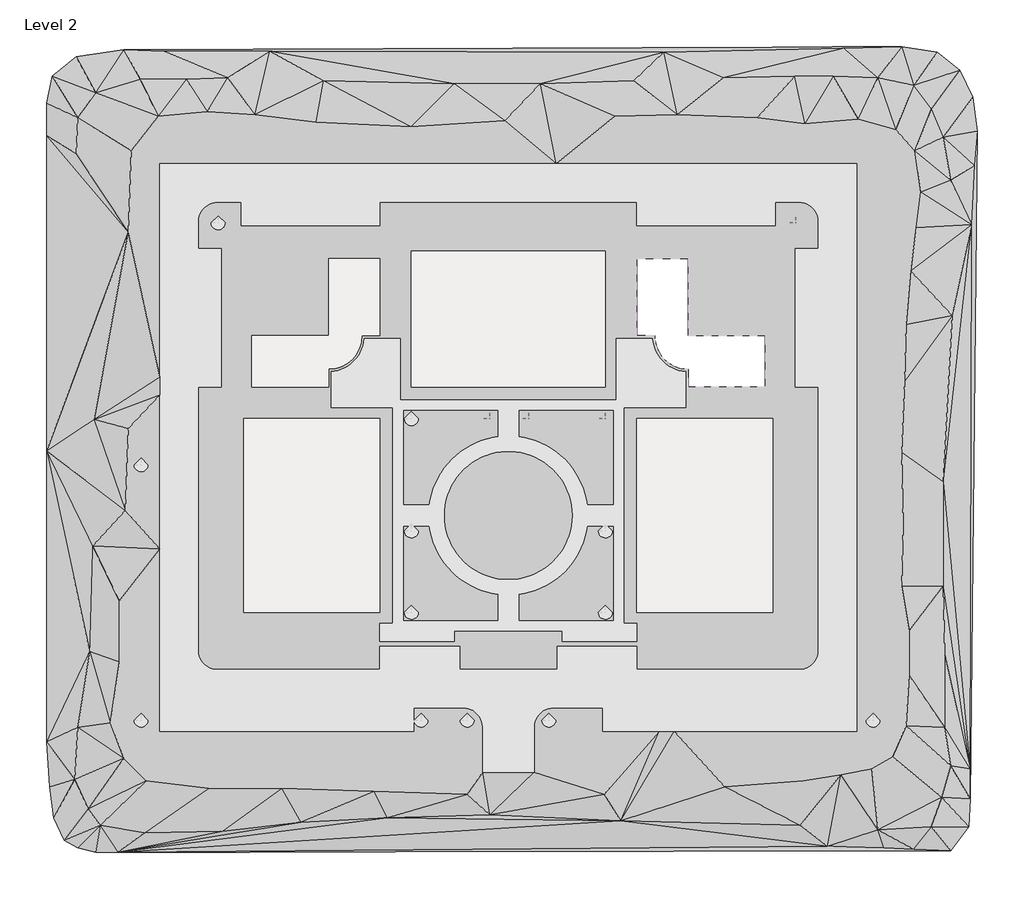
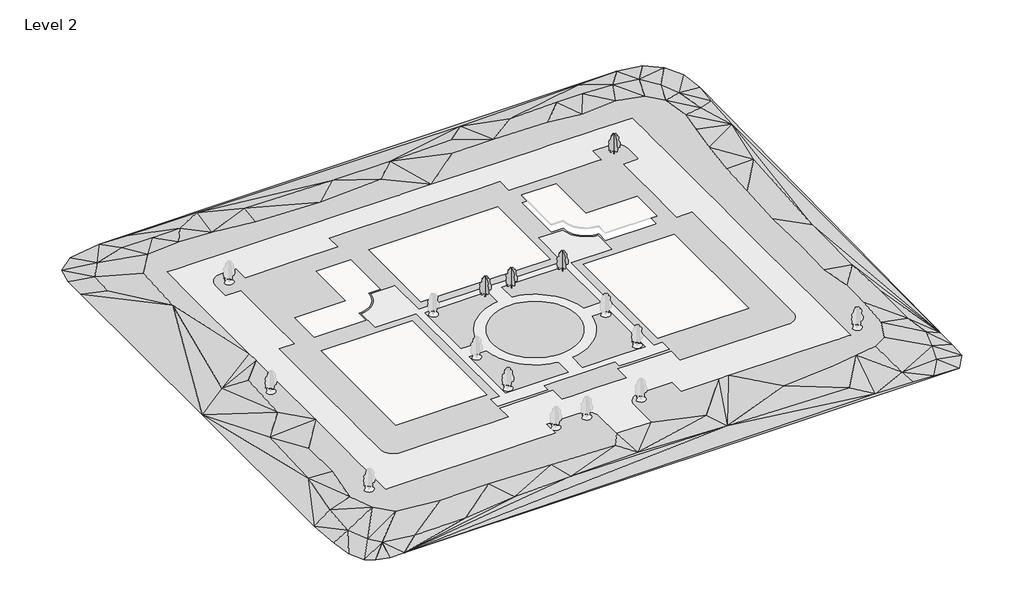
# One storey, part 2 of 2: 4 geographic elements, 1 proxy.
"""IFC4 building model written with IfcOpenShell, lengths in millimetres."""

from ifc_helpers import new_model, si_unit, origin, place, context, project, spatial, triangles, transform, mapped, element, save
from components import rpc_tree_deciduous_red_ash_25_14781bec

model = new_model("IFC4")

# Units and contexts
model_context = context("Model", 3, world=origin())
ifc_project = project(units=[si_unit("LENGTHUNIT", "METRE", prefix="MILLI")], contexts=[model_context])

# Site, building, storey
site = spatial("IfcSite", under=ifc_project)
building = spatial("IfcBuilding", under=site)
storey = spatial("IfcBuildingStorey", under=building, Name="Level 2", Elevation=3047.9999999)

# Proxy
placement = place(None, origin())
element("IfcBuildingElementProxy", 1, Name="Building Element Proxy", at=placement, inside=storey, context=model_context, shape_type="Tessellation", body=[
    triangles([(-199970.6219238, -770.6450392, 0.0), (-199970.6219238, -75600.9481934, 0.0), (-199970.6219238, -144783.6834961, 0.0), (-199264.6743164, -155372.8790039, 0.0), (-198205.762207, -162785.3195801, 0.0), (-195734.9362793, -168079.917334, 0.0), (-192558.1813477, -169844.7770508, 0.0), (-188322.5143066, -170903.6891602, 0.0), (-183027.9165527, -170903.6891602, 0.0), (14637.0472687, -170550.7246582, 0.0), (18872.7247742, -164903.1624023, 0.0), (19225.6974152, -158196.6694336, 0.0), (20990.5629456, 288.2743554, 0.0), (19931.6438599, 8406.6566345, 0.0), (16754.8854401, 14760.1734741, 0.0), (11460.2888489, 18995.8509796, 0.0), (2988.9332565, 20407.7427063, 0.0), (-181616.0213379, 19701.7974243, 0.0), (-192911.1644531, 17936.9307312, 0.0), (-198558.726709, 13348.2805847, 0.0), (-199970.6219238, 6994.7637451, 0.0), (-96458.3541504, -141259.5265137, 3048.0), (-96504.8908447, -140608.8592529, 3048.0), (-96643.5521484, -139971.4376953, 3048.0), (-96871.5196289, -139360.2470947, 3048.0), (-97184.1424072, -138787.7145996, 3048.0), (-97575.0673828, -138265.4953125, 3048.0), (-98036.332251, -137804.2304443, 3048.0), (-98558.5515381, -137413.3147705, 3048.0), (-98978.0329102, -137184.2496826, 3048.0), (-99131.0840332, -137100.6826904, 3048.0), (-99742.2746338, -136872.7245117, 3048.0), (-100379.6961914, -136734.0539063, 3048.0), (-101030.3541504, -136687.5265137, 3048.0), (-101809.9809814, -136687.5265137, 3048.0), (-112765.1541504, -136687.5265137, 3048.0), (-112765.1541504, -142173.9265137, 3048.0), (-113948.1331055, -142173.9265137, 3048.0), (-118098.4844238, -142173.9265137, 3048.0), (-134914.7603027, -142173.9265137, 3048.0), (-141364.1619873, -142173.9265137, 3048.0), (-155924.3616211, -142173.9265137, 3048.0), (-161579.2164551, -142173.9265137, 3048.0), (-171062.6189941, -142173.9265137, 3048.0), (-173115.5541504, -142173.9265137, 3048.0), (-173115.5541504, -139265.5924072, 3048.0), (-173115.5541504, -133177.6942383, 3048.0), (-173115.5541504, -122301.5302002, 3048.0), (-173115.5541504, -118406.8004883, 3048.0), (-173115.5541504, -98940.6863525, 3048.0), (-173115.5541504, -96485.831543, 3048.0), (-173115.5541504, -78335.3859375, 3048.0), (-173115.5541504, -62355.6543457, 3048.0), (-173115.5541504, -58140.023291, 3048.0), (-173115.5541504, -19343.470459, 3048.0), (-173115.5541504, -16797.6432953, 3048.0), (-173115.5541504, -12340.9792786, 3048.0), (-173115.5541504, -7452.3218628, 3048.0), (-169916.8098633, -7452.3218628, 3048.0), (-163060.4655762, -7452.3218628, 3048.0), (-152868.4644287, -7452.3218628, 3048.0), (-142112.3953857, -7452.3218628, 3048.0), (-121728.1977539, -7452.3218628, 3048.0), (-112747.4808105, -7452.3218628, 3048.0), (-91818.4420166, -7452.3218628, 3048.0), (-90362.3541504, -7452.3218628, 3048.0), (-89744.5965088, -7452.3218628, 3048.0), (-79028.6831543, -7452.3218628, 3048.0), (-55510.2210205, -7452.3218628, 3048.0), (-52788.1732178, -7452.3218628, 3048.0), (-40375.0099731, -7452.3218628, 3048.0), (-37615.0575073, -7452.3218628, 3048.0), (-23395.2487244, -7452.3218628, 3048.0), (-20332.1054626, -7452.3218628, 3048.0), (-13137.2725342, -7452.3218628, 3048.0), (-9769.8966797, -7452.3218628, 3048.0), (-7609.1582199, -7452.3218628, 3048.0), (-7609.1582199, -9469.011557, 3048.0), (-7609.1582199, -15160.5374084, 3048.0), (-7609.1582199, -20175.2708496, 3048.0), (-7609.1582199, -29394.9894836, 3048.0), (-7609.1582199, -34925.2565735, 3048.0), (-7609.1582199, -45786.2285156, 3048.0), (-7609.1582199, -48692.6557617, 3048.0), (-7609.1582199, -63543.7213623, 3048.0), (-7609.1582199, -67102.3320557, 3048.0), (-7609.1582199, -88141.7269043, 3048.0), (-7609.1582199, -103111.0178467, 3048.0), (-7609.1582199, -109311.1696289, 3048.0), (-7609.1582199, -119744.5513916, 3048.0), (-7609.1582199, -128757.108252, 3048.0), (-7609.1582199, -135897.4445068, 3048.0), (-7609.1582199, -141262.8472412, 3048.0), (-7609.1582199, -142173.9265137, 3048.0), (-8520.228772, -142173.9265137, 3048.0), (-12021.3371613, -142173.9265137, 3048.0), (-14368.7717834, -142173.9265137, 3048.0), (-27380.2333923, -142173.9265137, 3048.0), (-30015.5818359, -142173.9265137, 3048.0), (-50988.4086548, -142173.9265137, 3048.0), (-54593.6723145, -142173.9265137, 3048.0), (-67959.5588013, -142173.9265137, 3048.0), (-67959.5588013, -136687.5265137, 3048.0), (-70630.3399658, -136687.5265137, 3048.0), (-79694.3541504, -136687.5265137, 3048.0), (-80345.0214111, -136734.0539063, 3048.0), (-80982.4429688, -136872.7245117, 3048.0), (-81593.6335693, -137100.6826904, 3048.0), (-82166.1660645, -137413.3147705, 3048.0), (-82688.3853516, -137804.2304443, 3048.0), (-83149.640918, -138265.4953125, 3048.0), (-83540.5658936, -138787.7145996, 3048.0), (-83853.1979736, -139360.2470947, 3048.0), (-84081.1561523, -139971.4376953, 3048.0), (-84219.8174561, -140608.8592529, 3048.0), (-84266.3541504, -141259.5265137, 3048.0), (-84266.3541504, -151927.5265137, 3048.0), (-90362.3541504, -151927.5265137, 3048.0), (-96458.3541504, -151927.5265137, 3048.0), (-153151.1541504, -67955.1218628, 3048.0), (-153151.1541504, -99875.92229, 3048.0), (-153151.1541504, -113064.9684082, 3048.0), (-153151.1541504, -113979.9265137, 3048.0), (-152049.379541, -113979.9265137, 3048.0), (-140079.1613525, -113979.9265137, 3048.0), (-120842.3541504, -113979.9265137, 3048.0), (-120842.3541504, -67955.1218628, 3048.0), (-67349.9588013, -28178.7218628, 3048.0), (-86679.0999023, -28178.7218628, 3048.0), (-92962.2791748, -28178.7218628, 3048.0), (-110993.3460205, -28178.7218628, 3048.0), (-113374.7541504, -28178.7218628, 3048.0), (-113374.7541504, -60487.5218628, 3048.0), (-108258.9733887, -60487.5218628, 3048.0), (-94745.3238281, -60487.5218628, 3048.0), (-81900.5357666, -60487.5218628, 3048.0), (-67349.9588013, -60487.5218628, 3048.0), (-27573.5588013, -113979.9265137, 3048.0), (-27573.5588013, -111100.790625, 3048.0), (-27573.5588013, -67955.1218628, 3048.0), (-59882.3588013, -67955.1218628, 3048.0), (-59882.3588013, -113979.9265137, 3048.0), (-30077.1524963, -113979.9265137, 3048.0), (-120842.3541504, -30007.5218628, 3048.0), (-133034.3541504, -30007.5218628, 3048.0), (-133034.3541504, -48295.5218628, 3048.0), (-151322.3541504, -48295.5218628, 3048.0), (-151322.3541504, -60487.5218628, 3048.0), (-133034.3541504, -60487.5218628, 3048.0), (-133034.3541504, -56220.3218628, 3048.0), (-132147.0594727, -56170.4923462, 3048.0), (-131270.9269043, -56021.631665, 3048.0), (-130416.9604248, -55775.6094727, 3048.0), (-129595.9128662, -55435.5186035, 3048.0), (-128818.1091797, -55005.6425171, 3048.0), (-128093.3255127, -54491.3808838, 3048.0), (-127430.6775879, -53899.2030762, 3048.0), (-126838.4997803, -53236.5551514, 3048.0), (-126324.2334961, -52511.7714844, 3048.0), (-125894.3620605, -51733.963147, 3048.0), (-125554.2711914, -50912.9155884, 3048.0), (-125308.248999, -50058.9537598, 3048.0), (-125159.383667, -49182.8165405, 3048.0), (-125109.5541504, -48295.5218628, 3048.0), (-120842.3541504, -48295.5218628, 3048.0), (-59882.3588013, -30007.5218628, 3048.0), (-59882.3588013, -48295.5218628, 3048.0), (-55615.1588013, -48295.5218628, 3048.0), (-55565.3292847, -49182.8165405, 3048.0), (-55416.4686035, -50058.9537598, 3048.0), (-55170.4464111, -50912.9155884, 3048.0), (-54830.355542, -51733.963147, 3048.0), (-54400.4794556, -52511.7714844, 3048.0), (-53886.2178223, -53236.5551514, 3048.0), (-53294.0400146, -53899.2030762, 3048.0), (-52631.3920898, -54491.3808838, 3048.0), (-51906.603772, -55005.6425171, 3048.0), (-51128.8000854, -55435.5186035, 3048.0), (-50307.7525269, -55775.6094727, 3048.0), (-49453.7906982, -56021.631665, 3048.0), (-48577.653479, -56170.4923462, 3048.0), (-47690.3588013, -56220.3218628, 3048.0), (-47690.3588013, -60487.5218628, 3048.0), (-29402.3588013, -60487.5218628, 3048.0), (-29402.3588013, -48900.5221436, 3048.0), (-29402.3588013, -48295.5218628, 3048.0), (-30126.7308655, -48295.5218628, 3048.0), (-47690.3588013, -48295.5218628, 3048.0), (-47690.3588013, -33626.2753967, 3048.0), (-47690.3588013, -30007.5218628, 3048.0), (-52023.1268921, -30007.5218628, 3048.0), (-120842.3541504, -16596.3218628, 3048.0), (-120842.3541504, -22082.7218628, 3048.0), (-135421.6781982, -22082.7218628, 3048.0), (-151061.086377, -22082.7218628, 3048.0), (-153760.7541504, -22082.7218628, 3048.0), (-153760.7541504, -16596.3218628, 3048.0), (-159399.5541504, -16596.3218628, 3048.0), (-160050.2307129, -16642.8585571, 3048.0), (-160687.6429688, -16781.5198608, 3048.0), (-161298.8428711, -17009.4838531, 3048.0), (-161871.3660645, -17322.1112823, 3048.0), (-162393.5853516, -17713.0350952, 3048.0), (-162854.840918, -18174.2988007, 3048.0), (-163245.7751953, -18696.5122742, 3048.0), (-163558.3886719, -19269.0447693, 3048.0), (-163786.3561523, -19880.2400208, 3048.0), (-163925.0267578, -20517.6592529, 3048.0), (-163971.5541504, -21168.3218628, 3048.0), (-163971.5541504, -27569.1218628, 3048.0), (-158485.1541504, -27569.1218628, 3048.0), (-158485.1541504, -34220.483313, 3048.0), (-158485.1541504, -46724.2270752, 3048.0), (-158485.1541504, -60487.5218628, 3048.0), (-163971.5541504, -60487.5218628, 3048.0), (-163971.5541504, -88201.2767578, 3048.0), (-163971.5541504, -104079.330835, 3048.0), (-163971.5541504, -109289.2825928, 3048.0), (-163971.5541504, -122971.5265137, 3048.0), (-163925.0267578, -123622.1844727, 3048.0), (-163786.3561523, -124259.6060303, 3048.0), (-163558.3886719, -124870.7966309, 3048.0), (-163245.7751953, -125443.329126, 3048.0), (-162854.840918, -125965.5484131, 3048.0), (-162393.5853516, -126426.8132813, 3048.0), (-161871.3660645, -126817.7289551, 3048.0), (-161298.8428711, -127130.3610352, 3048.0), (-160687.6429688, -127358.3192139, 3048.0), (-160050.2307129, -127496.9898193, 3048.0), (-159399.5541504, -127543.5265137, 3048.0), (-147842.1479736, -127543.5265137, 3048.0), (-135716.2462646, -127543.5265137, 3048.0), (-127508.0124023, -127543.5265137, 3048.0), (-120842.3541504, -127543.5265137, 3048.0), (-120842.3541504, -122057.1265137, 3048.0), (-103048.1844727, -122057.1265137, 3048.0), (-101944.7541504, -122057.1265137, 3048.0), (-101944.7541504, -127543.5265137, 3048.0), (-98445.9909668, -127543.5265137, 3048.0), (-90362.3541504, -127543.5265137, 3048.0), (-78779.9541504, -127543.5265137, 3048.0), (-78779.9541504, -122057.1265137, 3048.0), (-72794.2171875, -122057.1265137, 3048.0), (-59882.3588013, -122057.1265137, 3048.0), (-59882.3588013, -127543.5265137, 3048.0), (-41871.5883911, -127543.5265137, 3048.0), (-34741.3910522, -127543.5265137, 3048.0), (-21325.1588013, -127543.5265137, 3048.0), (-20674.493866, -127496.9898193, 3048.0), (-20037.0769592, -127358.3192139, 3048.0), (-19872.0754028, -127296.7787842, 3048.0), (-19425.880545, -127130.3610352, 3048.0), (-18853.3480499, -126817.7289551, 3048.0), (-18331.1345764, -126426.8132813, 3048.0), (-17869.870871, -125965.5484131, 3048.0), (-17478.9470581, -125443.329126, 3048.0), (-17166.3207916, -124870.7966309, 3048.0), (-16938.3556366, -124259.6060303, 3048.0), (-16799.6943329, -123622.1844727, 3048.0), (-16753.1576385, -122971.5265137, 3048.0), (-16753.1576385, -122722.3696289, 3048.0), (-16753.1576385, -111345.1664063, 3048.0), (-16753.1576385, -98657.3269043, 3048.0), (-16753.1576385, -60487.5218628, 3048.0), (-22239.5588013, -60487.5218628, 3048.0), (-22239.5588013, -54882.9383789, 3048.0), (-22239.5588013, -46411.753125, 3048.0), (-22239.5588013, -35337.7267456, 3048.0), (-22239.5588013, -28669.615155, 3048.0), (-22239.5588013, -27569.1218628, 3048.0), (-16753.1576385, -27569.1218628, 3048.0), (-16753.1576385, -26553.1513184, 3048.0), (-16753.1576385, -21168.3218628, 3048.0), (-16799.6943329, -20517.6592529, 3048.0), (-16938.3556366, -19880.2400208, 3048.0), (-17166.3207916, -19269.0447693, 3048.0), (-17478.9470581, -18696.5122742, 3048.0), (-17869.870871, -18174.2988007, 3048.0), (-18331.1345764, -17713.0350952, 3048.0), (-18853.3480499, -17322.1112823, 3048.0), (-19425.880545, -17009.4838531, 3048.0), (-20037.0769592, -16781.5198608, 3048.0), (-20674.493866, -16642.8585571, 3048.0), (-21325.1588013, -16596.3218628, 3048.0), (-26963.9588013, -16596.3218628, 3048.0), (-26963.9588013, -17204.3033569, 3048.0), (-26963.9588013, -22082.7218628, 3048.0), (-27869.6965393, -22082.7218628, 3048.0), (-36760.488739, -22082.7218628, 3048.0), (-43016.1185303, -22082.7218628, 3048.0), (-59882.3588013, -22082.7218628, 3048.0), (-59882.3588013, -16596.3218628, 3048.0), (-68080.4816528, -16596.3218628, 3048.0), (-88392.1767334, -16596.3218628, 3048.0), (-92323.0716797, -16596.3218628, 3048.0), (-111973.5931641, -16596.3218628, 3048.0), (-115965.5541504, -63535.5218628, 3048.0), (-108001.017041, -63535.5218628, 3048.0), (-94913.5368164, -63535.5218628, 3048.0), (-81449.735376, -63535.5218628, 3048.0), (-64759.1588013, -63535.5218628, 3048.0), (-64759.1588013, -48905.1218628, 3048.0), (-56202.9601318, -48905.1218628, 3048.0), (-56096.6642944, -49768.622644, 3048.0), (-55903.0063477, -50616.8173828, 3048.0), (-55624.0001221, -51440.8880127, 3048.0), (-55262.5431152, -52232.2676147, 3048.0), (-54822.3978882, -52982.7380859, 3048.0), (-54308.131604, -53684.4999023, 3048.0), (-53725.0881226, -54330.255835, 3048.0), (-53079.3368408, -54913.2946655, 3048.0), (-52377.5750244, -55427.5609497, 3048.0), (-51627.1045532, -55867.7061768, 3048.0), (-50835.7249512, -56229.1631836, 3048.0), (-50011.6543213, -56508.1694092, 3048.0), (-49163.4595825, -56701.827356, 3048.0), (-48299.9588013, -56808.1231934, 3048.0), (-48299.9588013, -65364.3218628, 3048.0), (-62930.3588013, -65364.3218628, 3048.0), (-62930.3588013, -116570.7265137, 3048.0), (-59882.3588013, -116570.7265137, 3048.0), (-59882.3588013, -120837.9265137, 3048.0), (-72974.5410645, -120837.9265137, 3048.0), (-77560.7588013, -120837.9265137, 3048.0), (-77560.7588013, -118399.5265137, 3048.0), (-90362.3541504, -118399.5265137, 3048.0), (-97941.352002, -118399.5265137, 3048.0), (-103163.9541504, -118399.5265137, 3048.0), (-103163.9541504, -120689.163501, 3048.0), (-103163.9541504, -120837.9265137, 3048.0), (-120842.3541504, -120837.9265137, 3048.0), (-120842.3541504, -116570.7265137, 3048.0), (-117794.3541504, -116570.7265137, 3048.0), (-117794.3541504, -65364.3218628, 3048.0), (-132424.7541504, -65364.3218628, 3048.0), (-132424.7541504, -56808.1231934, 3048.0), (-131561.2533691, -56701.827356, 3048.0), (-130713.0632813, -56508.1694092, 3048.0), (-129888.9926514, -56229.1631836, 3048.0), (-129097.6083984, -55867.7061768, 3048.0), (-128347.1425781, -55427.5609497, 3048.0), (-127645.3807617, -54913.2946655, 3048.0), (-126999.6248291, -54330.255835, 3048.0), (-126416.5813477, -53684.4999023, 3048.0), (-125902.3150635, -52982.7380859, 3048.0), (-125462.1744873, -52232.2676147, 3048.0), (-125100.7174805, -51440.8880127, 3048.0), (-124821.7112549, -50616.8173828, 3048.0), (-124628.057959, -49768.622644, 3048.0), (-124521.7574707, -48905.1218628, 3048.0), (-115965.5541504, -48905.1218628, 3048.0), (-92800.7541504, -65973.9218628, 3048.0), (-95048.1053467, -65973.9218628, 3048.0), (-107794.6482422, -65973.9218628, 3048.0), (-115355.9541504, -65973.9218628, 3048.0), (-115355.9541504, -88529.1265137, 3048.0), (-109101.9823975, -88529.1265137, 3048.0), (-108874.6474365, -87170.8838379, 3048.0), (-108549.0021973, -85832.807373, 3048.0), (-108126.7768066, -84522.0036621, 3048.0), (-107610.2129883, -83245.4211182, 3048.0), (-107002.0547607, -82009.8500244, 3048.0), (-106508.6988281, -81168.3851074, 3048.0), (-106305.529834, -80821.8574219, 3048.0), (-105524.3403076, -79687.7312988, 3048.0), (-104662.6254639, -78613.5177979, 3048.0), (-103724.9803711, -77604.900293, 3048.0), (-102716.3628662, -76667.2505493, 3048.0), (-101642.1493652, -75805.5403564, 3048.0), (-100508.0232422, -75024.3508301, 3048.0), (-99320.0213379, -74327.8259033, 3048.0), (-98084.4595459, -73719.6676758, 3048.0), (-96807.877002, -73203.1038574, 3048.0), (-95497.073291, -72780.8784668, 3048.0), (-95422.7708496, -72762.7958496, 3048.0), (-94158.9968262, -72455.2332275, 3048.0), (-92800.7541504, -72227.8982666, 3048.0), (-92800.7541504, -115961.1265137, 3048.0), (-92800.7541504, -109707.145459, 3048.0), (-94158.9968262, -109479.810498, 3048.0), (-95497.073291, -109154.1652588, 3048.0), (-96807.877002, -108731.9398682, 3048.0), (-97394.7156006, -108494.475293, 3048.0), (-98084.4595459, -108215.3760498, 3048.0), (-99320.0213379, -107607.2178223, 3048.0), (-100508.0232422, -106910.6928955, 3048.0), (-101642.1493652, -106129.5033691, 3048.0), (-102716.3628662, -105267.7978271, 3048.0), (-103724.9803711, -104330.1434326, 3048.0), (-104630.9436768, -103355.6168701, 3048.0), (-104662.6254639, -103321.5259277, 3048.0), (-105524.3403076, -102247.3124268, 3048.0), (-106305.529834, -101113.1863037, 3048.0), (-107002.0547607, -99925.1937012, 3048.0), (-107610.2129883, -98689.6226074, 3048.0), (-108126.7768066, -97413.0400635, 3048.0), (-108549.0021973, -96102.2363525, 3048.0), (-108874.6474365, -94764.1598877, 3048.0), (-109101.9823975, -93405.9265137, 3048.0), (-115355.9541504, -93405.9265137, 3048.0), (-115355.9541504, -115961.1265137, 3048.0), (-103564.1064697, -115961.1265137, 3048.0), (-97806.7834717, -115961.1265137, 3048.0), (-105602.3541504, -90967.5265137, 3048.0), (-105552.9432129, -92193.8330566, 3048.0), (-105405.0080566, -93412.1865967, 3048.0), (-105159.5067627, -94614.6899414, 3048.0), (-104818.0578369, -95793.538916, 3048.0), (-104382.8471924, -96941.0967773, 3048.0), (-103856.7118652, -98049.9035156, 3048.0), (-103243.0562988, -99112.7781738, 3048.0), (-102545.8616455, -100122.8374512, 3048.0), (-101769.6578613, -101073.5143066, 3048.0), (-100919.4771973, -101958.6509766, 3048.0), (-100000.8262939, -102772.4989746, 3048.0), (-99019.6675781, -103509.7935059, 3048.0), (-97982.3541504, -104165.7534668, 3048.0), (-97179.0915527, -104587.3370361, 3048.0), (-96895.6297852, -104736.1093506, 3048.0), (-95766.5359131, -105217.1683594, 3048.0), (-94602.3930176, -105605.8144043, 3048.0), (-93410.754126, -105899.5360107, 3048.0), (-92199.3396973, -106096.4077148, 3048.0), (-90976.0097168, -106195.1644775, 3048.0), (-89748.7078857, -106195.1644775, 3048.0), (-88525.3779053, -106096.4077148, 3048.0), (-87313.9634766, -105899.5360107, 3048.0), (-86122.324585, -105605.8144043, 3048.0), (-84958.1816895, -105217.1683594, 3048.0), (-83829.0878174, -104736.1093506, 3048.0), (-82742.3541504, -104165.7534668, 3048.0), (-81705.0500244, -103509.7935059, 3048.0), (-80723.8913086, -102772.4989746, 3048.0), (-79805.2404053, -101958.6509766, 3048.0), (-78955.0504395, -101073.5143066, 3048.0), (-78178.8466553, -100122.8374512, 3048.0), (-77481.6613037, -99112.7781738, 3048.0), (-76868.0103882, -98049.9035156, 3048.0), (-76469.2486816, -97209.5362061, 3048.0), (-76341.8704102, -96941.0967773, 3048.0), (-75906.6644165, -95793.538916, 3048.0), (-75565.206189, -94614.6899414, 3048.0), (-75319.7141968, -93412.1865967, 3048.0), (-75171.7743896, -92193.8330566, 3048.0), (-75122.3588013, -90967.5265137, 3048.0), (-75171.7743896, -89741.2106689, 3048.0), (-75319.7141968, -88522.8571289, 3048.0), (-75565.206189, -87320.3537842, 3048.0), (-75906.6644165, -86141.5048096, 3048.0), (-76341.8704102, -84993.9469482, 3048.0), (-76868.0103882, -83885.14021, 3048.0), (-77481.6613037, -82822.2655518, 3048.0), (-78178.8466553, -81812.2062744, 3048.0), (-78872.1438721, -80963.076709, 3048.0), (-78955.0504395, -80861.5294189, 3048.0), (-79805.2404053, -79976.392749, 3048.0), (-80723.8913086, -79162.544751, 3048.0), (-81705.0500244, -78425.2502197, 3048.0), (-82742.3541504, -77769.2949097, 3048.0), (-83829.0878174, -77198.9390259, 3048.0), (-84958.1816895, -76717.8753662, 3048.0), (-86122.324585, -76329.2246704, 3048.0), (-87313.9634766, -76035.5123657, 3048.0), (-88525.3779053, -75838.6406616, 3048.0), (-89748.7078857, -75739.879248, 3048.0), (-90976.0097168, -75739.879248, 3048.0), (-92199.3396973, -75838.6406616, 3048.0), (-93410.754126, -76035.5123657, 3048.0), (-94602.3930176, -76329.2246704, 3048.0), (-95638.683252, -76675.1895996, 3048.0), (-95766.5359131, -76717.8753662, 3048.0), (-96895.6297852, -77198.9390259, 3048.0), (-97982.3541504, -77769.2949097, 3048.0), (-99019.6675781, -78425.2502197, 3048.0), (-100000.8262939, -79162.544751, 3048.0), (-100919.4771973, -79976.392749, 3048.0), (-101769.6578613, -80861.5294189, 3048.0), (-102545.8616455, -81812.2062744, 3048.0), (-103243.0562988, -82822.2655518, 3048.0), (-103856.7118652, -83885.14021, 3048.0), (-104382.8471924, -84993.9469482, 3048.0), (-104818.0578369, -86141.5048096, 3048.0), (-105159.5067627, -87320.3537842, 3048.0), (-105405.0080566, -88522.8571289, 3048.0), (-105552.9432129, -89741.2106689, 3048.0), (-87923.9541504, -65973.9218628, 3048.0), (-87923.9541504, -72227.8982666, 3048.0), (-86565.7207764, -72455.2332275, 3048.0), (-85227.6443115, -72780.8784668, 3048.0), (-83916.8406006, -73203.1038574, 3048.0), (-82640.2580566, -73719.6676758, 3048.0), (-81404.6869629, -74327.8259033, 3048.0), (-80216.6943604, -75024.3508301, 3048.0), (-79697.6190674, -75381.8917969, 3048.0), (-79082.5682373, -75805.5403564, 3048.0), (-78008.3500854, -76667.2505493, 3048.0), (-76999.7372314, -77604.900293, 3048.0), (-76062.0874878, -78613.5177979, 3048.0), (-75200.3772949, -79687.7312988, 3048.0), (-74419.1877686, -80821.8574219, 3048.0), (-73722.6628418, -82009.8500244, 3048.0), (-73114.5046143, -83245.4211182, 3048.0), (-72597.9407959, -84522.0036621, 3048.0), (-72175.7154053, -85832.807373, 3048.0), (-71850.070166, -87170.8838379, 3048.0), (-71622.7352051, -88529.1265137, 3048.0), (-65368.7588013, -88529.1265137, 3048.0), (-65368.7588013, -65973.9218628, 3048.0), (-81089.0876221, -65973.9218628, 3048.0), (-87923.9541504, -115961.1265137, 3048.0), (-73695.8365723, -115961.1265137, 3048.0), (-65368.7588013, -115961.1265137, 3048.0), (-65368.7588013, -93405.9265137, 3048.0), (-71622.7352051, -93405.9265137, 3048.0), (-71850.070166, -94764.1598877, 3048.0), (-72175.7154053, -96102.2363525, 3048.0), (-72597.9407959, -97413.0400635, 3048.0), (-73114.5046143, -98689.6226074, 3048.0), (-73722.6628418, -99925.1937012, 3048.0), (-74419.1877686, -101113.1863037, 3048.0), (-75200.3772949, -102247.3124268, 3048.0), (-75642.6107666, -102798.599707, 3048.0), (-76062.0874878, -103321.5259277, 3048.0), (-76999.7372314, -104330.1434326, 3048.0), (-78008.3500854, -105267.7978271, 3048.0), (-79082.5682373, -106129.5033691, 3048.0), (-80216.6943604, -106910.6928955, 3048.0), (-81404.6869629, -107607.2178223, 3048.0), (-82640.2580566, -108215.3760498, 3048.0), (-83916.8406006, -108731.9398682, 3048.0), (-85227.6443115, -109154.1652588, 3048.0), (-86565.7207764, -109479.810498, 3048.0), (-87923.9541504, -109707.145459, 3048.0), (-172085.7379395, 19348.8236206, 0.0), (-147024.6536865, 19348.8236206, 0.0), (-53486.7677856, 18995.8509796, 0.0), (-10777.018927, 20054.771228, 0.0), (20284.6176636, -7830.1081055, 0.0), (19578.6700562, -21949.0323486, 0.0), (19225.6974152, -151137.2026611, 0.0), (5812.718454, -170197.7601563, 0.0), (-1246.744249, -169844.7770508, 0.0), (-14659.7237915, -169491.8125488, 0.0), (-192911.1644531, -5006.322908, 1524.0), (-192558.1813477, 3465.0326843, 1524.0), (-188322.5143066, 9465.5757202, 1524.0), (-177733.3187988, 12642.33414, 1524.0), (-166791.1401855, 12642.33414, 1524.0), (-156907.8922852, 12995.306781, 1524.0), (-134317.6153564, 12289.361499, 1524.0), (-103255.9857422, 11583.4150543, 1524.0), (-82783.542334, 11583.4150543, 1524.0), (-60546.2299072, 12289.361499, 1524.0), (-39367.8435425, 12995.306781, 1524.0), (-22425.1335205, 13348.2805847, 1524.0), (-13247.8309021, 13348.2805847, 1524.0), (-2658.6368477, 12995.306781, 1524.0), (5812.718454, 11230.4412506, 1524.0), (10048.3959595, 5582.8714371, 1524.0), (12872.1817383, -1123.6181889, 1524.0), (14637.0472687, -11359.8391663, 1524.0), (14990.0199097, -43480.3925171, 1524.0), (12872.1817383, -83013.3887695, 1524.0), (12872.1817383, -107721.5085205, 1524.0), (13225.1543793, -123958.2662842, 1524.0), (13225.1543793, -141253.9547607, 1524.0), (14637.0472687, -150431.2550537, 1524.0), (12519.2079346, -157843.6863281, 1524.0), (10048.3959595, -164903.1624023, 1524.0), (-2658.6368477, -165609.0914062, 1524.0), (-21013.2406311, -164550.1792969, 1524.0), (-63722.9894897, -163491.2671875, 1524.0), (-94784.6237549, -162079.3719727, 1524.0), (-119139.7697021, -162785.3195801, 1524.0), (-139612.2131104, -163844.2316895, 1524.0), (-158319.7875, -165962.0745117, 1524.0), (-176674.3880859, -166315.0390137, 1524.0), (-187263.5835937, -164550.1792969, 1524.0), (-190087.3740234, -160667.4767578, 1524.0), (-193264.1289551, -153608.0099854, 1524.0), (-192558.1813477, -141253.9547607, 1524.0), (-189734.390918, -123252.3279785, 1524.0), (-189028.4619141, -98191.2344238, 1524.0), (-188675.4788086, -68188.5122681, 1524.0), (-180557.090625, -23713.8990417, 3048.0), (-179851.1430176, -4300.3764633, 3048.0), (-173497.6331543, 3818.005616, 3048.0), (-161849.5255371, 4876.9249924, 3048.0), (-150554.3824219, 4170.9788383, 3048.0), (-136082.484375, 2406.1131626, 3048.0), (-113492.1981445, 1347.1937862, 3048.0), (-91254.8950195, 2759.0862396, 3048.0), (-65134.8800537, 3818.005616, 3048.0), (-50310.0082031, 4170.9788383, 3048.0), (-31249.4600098, 3465.0326843, 3048.0), (-19954.3215454, 2053.1400856, 3048.0), (-7247.2878662, 3112.059462, 3048.0), (1577.0408031, 641.2474869, 3048.0), (6165.6916763, -4300.3764633, 3048.0), (7577.5839844, -14183.6237823, 3048.0), (6518.6648987, -22654.9799561, 3048.0), (5106.7720093, -32891.2016602, 3048.0), (4047.8529236, -45598.2353394, 3048.0), (3694.8797012, -59011.2119751, 3048.0), (2988.9332565, -75953.9219971, 3048.0), (3341.9064789, -93249.6104736, 3048.0), (2988.9332565, -107721.5085205, 3048.0), (4753.7990776, -118310.7040283, 3048.0), (4753.7990776, -128899.8902344, 3048.0), (4047.8529236, -140900.980957, 3048.0), (871.0945765, -148313.4122314, 3048.0), (-4070.5294464, -151137.2026611, 3048.0), (-11482.9653717, -152549.097876, 3048.0), (-20307.2930237, -153960.9837891, 3048.0), (-39014.8697388, -155372.8790039, 3048.0), (-67605.6920288, -157137.7387207, 3048.0), (-100079.2215088, -157137.7387207, 3048.0), (-122316.5339355, -156431.7911133, 3048.0), (-144200.8632568, -155725.8528076, 3048.0), (-161496.5424316, -155725.8528076, 3048.0), (-176321.423584, -153960.9837891, 3048.0), (-181616.0213379, -148666.3860352, 3048.0), (-184792.7762695, -140195.0333496, 3048.0), (-182674.9334473, -125723.1353027, 3048.0), (-182674.9334473, -111251.2372559, 3048.0), (-181263.0382324, -89719.8724365, 3048.0), (-180557.090625, -70306.3550903, 3048.0)], [[5, 6, 579], [5, 580, 4], [578, 6, 7], [8, 9, 578], [621, 579, 578], [579, 6, 578], [577, 578, 9], [580, 5, 579], [9, 576, 577], [578, 7, 8], [577, 621, 578], [580, 622, 581], [580, 579, 622], [580, 581, 3], [581, 622, 623], [582, 581, 623], [3, 581, 582], [622, 45, 623], [580, 3, 4], [45, 46, 623], [45, 621, 44], [47, 623, 46], [44, 621, 620], [622, 621, 45], [579, 621, 622], [47, 624, 623], [621, 577, 620], [620, 576, 619], [576, 620, 577], [620, 42, 43], [42, 620, 619], [42, 619, 41], [576, 575, 619], [620, 43, 44], [575, 574, 618], [575, 576, 9], [40, 41, 619], [619, 618, 40], [40, 618, 39], [618, 617, 37], [619, 575, 618], [9, 574, 575], [229, 230, 219], [232, 125, 231], [230, 231, 123], [233, 125, 232], [39, 618, 38], [618, 37, 38], [235, 233, 234], [618, 574, 617], [574, 572, 573], [624, 625, 582], [219, 220, 227], [624, 582, 623], [224, 225, 222], [47, 48, 624], [222, 223, 224], [222, 225, 221], [221, 226, 220], [218, 219, 123], [49, 625, 624], [626, 583, 50], [625, 583, 582], [625, 50, 583], [583, 626, 2], [49, 624, 48], [122, 217, 218], [50, 51, 626], [216, 217, 121], [50, 625, 49], [51, 52, 626], [226, 221, 225], [3, 582, 2], [228, 219, 227], [219, 228, 229], [230, 123, 219], [123, 122, 218], [231, 124, 123], [231, 125, 124], [235, 330, 331], [126, 332, 333], [233, 332, 125], [235, 236, 330], [331, 332, 233], [235, 331, 233], [394, 401, 393], [356, 361, 362], [126, 125, 332], [334, 126, 333], [121, 217, 122], [356, 357, 358], [399, 400, 398], [400, 397, 398], [216, 121, 120], [394, 395, 400], [227, 220, 226], [359, 356, 358], [36, 37, 35], [2, 582, 583], [34, 30, 33], [34, 22, 30], [29, 30, 28], [37, 119, 22], [32, 30, 31], [32, 33, 30], [35, 22, 34], [329, 330, 237], [329, 327, 328], [384, 402, 403], [237, 330, 236], [389, 401, 402], [237, 327, 329], [386, 402, 385], [385, 402, 384], [327, 237, 239], [238, 239, 237], [402, 386, 387], [26, 30, 25], [30, 27, 28], [30, 26, 27], [30, 24, 25], [119, 573, 118], [573, 119, 617], [30, 23, 24], [573, 117, 118], [30, 22, 23], [37, 22, 35], [381, 403, 380], [382, 383, 403], [381, 382, 403], [403, 383, 384], [380, 378, 379], [378, 380, 403], [326, 327, 240], [239, 240, 327], [242, 326, 240], [617, 574, 573], [397, 400, 396], [396, 400, 395], [401, 390, 391], [393, 401, 392], [392, 401, 391], [401, 394, 400], [405, 406, 418], [418, 404, 405], [418, 406, 407], [418, 485, 404], [418, 484, 485], [484, 418, 483], [482, 483, 470], [408, 418, 407], [418, 408, 409], [387, 388, 402], [418, 419, 420], [418, 420, 421], [425, 418, 424], [424, 418, 423], [418, 422, 423], [418, 421, 422], [418, 470, 483], [411, 412, 418], [409, 410, 418], [411, 418, 410], [412, 413, 418], [417, 418, 416], [416, 418, 415], [418, 414, 415], [413, 414, 418], [482, 470, 481], [439, 470, 418], [388, 389, 402], [389, 390, 401], [360, 356, 359], [37, 617, 119], [574, 9, 572], [626, 584, 2], [626, 627, 584], [584, 53, 54], [53, 584, 627], [627, 52, 53], [2, 584, 585], [120, 214, 215], [214, 120, 148], [214, 148, 147], [120, 335, 148], [626, 52, 627], [585, 54, 55], [209, 210, 211], [211, 196, 209], [54, 585, 584], [213, 147, 212], [195, 196, 211], [145, 195, 212], [209, 196, 198], [195, 211, 212], [145, 212, 147], [214, 147, 213], [2, 585, 1], [336, 149, 335], [335, 149, 148], [150, 336, 151], [336, 150, 149], [337, 151, 336], [337, 338, 152], [339, 153, 338], [338, 153, 152], [154, 339, 340], [337, 152, 151], [153, 339, 154], [195, 145, 194], [147, 146, 145], [155, 341, 156], [155, 154, 340], [156, 342, 157], [342, 156, 341], [157, 342, 343], [341, 155, 340], [145, 193, 194], [334, 335, 127], [216, 120, 215], [586, 57, 58], [586, 544, 585], [545, 544, 586], [544, 545, 1], [586, 58, 587], [1, 585, 544], [586, 585, 57], [587, 59, 588], [56, 57, 585], [55, 56, 585], [587, 58, 59], [21, 545, 20], [545, 21, 1], [20, 546, 19], [546, 20, 545], [19, 546, 18], [586, 546, 545], [587, 548, 547], [588, 548, 587], [18, 547, 534], [18, 546, 547], [534, 547, 548], [18, 534, 535], [548, 549, 534], [547, 546, 587], [586, 587, 546], [203, 206, 202], [205, 203, 204], [203, 205, 206], [206, 207, 202], [202, 207, 201], [201, 207, 208], [200, 201, 208], [199, 200, 209], [209, 200, 208], [198, 199, 209], [61, 588, 60], [549, 588, 589], [588, 549, 548], [60, 588, 59], [588, 61, 589], [62, 590, 589], [63, 590, 62], [589, 550, 535], [550, 589, 590], [535, 550, 551], [589, 535, 549], [550, 590, 591], [62, 589, 61], [549, 535, 534], [196, 197, 198], [18, 535, 17], [363, 355, 362], [355, 356, 362], [363, 364, 355], [478, 479, 470], [470, 477, 478], [477, 470, 476], [365, 366, 355], [355, 366, 354], [334, 127, 126], [366, 367, 354], [355, 364, 365], [369, 370, 354], [368, 369, 354], [367, 368, 354], [354, 370, 371], [480, 470, 479], [127, 335, 120], [473, 474, 470], [473, 470, 472], [471, 472, 470], [475, 470, 474], [469, 470, 468], [470, 467, 468], [467, 470, 466], [466, 470, 465], [475, 476, 470], [372, 353, 354], [374, 375, 353], [373, 374, 353], [372, 373, 353], [353, 377, 352], [377, 353, 376], [376, 353, 375], [372, 354, 371], [481, 470, 480], [470, 464, 465], [344, 158, 157], [158, 345, 159], [345, 158, 344], [159, 345, 346], [160, 346, 347], [346, 160, 159], [161, 347, 348], [347, 161, 160], [161, 348, 162], [351, 165, 350], [162, 349, 163], [162, 348, 349], [163, 350, 164], [350, 163, 349], [164, 350, 165], [193, 144, 132], [145, 144, 193], [296, 192, 193], [351, 144, 165], [157, 343, 344], [297, 133, 351], [133, 132, 351], [132, 144, 351], [298, 299, 135], [298, 133, 297], [135, 134, 298], [298, 134, 133], [131, 130, 295], [551, 591, 592], [591, 63, 64], [64, 65, 591], [591, 551, 550], [132, 131, 296], [132, 296, 193], [65, 66, 592], [592, 66, 67], [65, 592, 591], [67, 68, 592], [131, 295, 296], [551, 592, 552], [130, 294, 295], [63, 591, 590], [356, 360, 361], [535, 551, 536], [426, 418, 425], [105, 114, 115], [105, 115, 116], [105, 112, 113], [111, 105, 110], [112, 105, 111], [105, 113, 114], [105, 116, 102], [532, 533, 510], [427, 428, 418], [418, 428, 429], [530, 531, 510], [439, 429, 430], [429, 439, 418], [532, 510, 531], [431, 439, 430], [240, 241, 242], [108, 109, 105], [107, 105, 106], [105, 107, 108], [109, 110, 105], [243, 324, 242], [324, 243, 323], [242, 324, 325], [326, 242, 325], [511, 529, 530], [526, 527, 511], [528, 511, 527], [511, 525, 526], [524, 525, 511], [523, 524, 511], [523, 512, 522], [529, 511, 528], [511, 530, 510], [523, 511, 512], [102, 116, 117], [439, 431, 432], [439, 433, 434], [439, 434, 435], [439, 435, 436], [470, 439, 454], [438, 439, 437], [439, 436, 437], [441, 439, 440], [452, 453, 454], [454, 456, 457], [456, 454, 455], [470, 454, 462], [441, 442, 439], [449, 450, 454], [451, 452, 454], [454, 450, 451], [448, 449, 454], [454, 439, 448], [432, 433, 439], [445, 439, 444], [439, 443, 444], [445, 446, 439], [513, 517, 518], [513, 516, 517], [519, 512, 513], [520, 521, 512], [448, 439, 447], [508, 499, 500], [439, 446, 447], [504, 505, 507], [502, 503, 507], [504, 507, 503], [508, 501, 507], [439, 442, 443], [521, 522, 512], [323, 243, 322], [458, 454, 457], [572, 571, 615], [571, 572, 543], [615, 100, 572], [572, 101, 616], [571, 614, 615], [616, 117, 573], [571, 613, 614], [613, 571, 543], [97, 613, 96], [613, 97, 614], [96, 613, 95], [543, 570, 613], [615, 614, 99], [572, 9, 543], [97, 98, 614], [101, 102, 616], [104, 102, 103], [104, 105, 102], [572, 100, 101], [100, 615, 99], [143, 246, 247], [138, 247, 248], [614, 98, 99], [102, 117, 616], [542, 541, 570], [541, 542, 543], [568, 612, 570], [612, 95, 613], [569, 570, 541], [568, 570, 569], [541, 10, 569], [542, 570, 543], [11, 568, 569], [567, 568, 12], [12, 568, 11], [540, 12, 13], [612, 568, 611], [11, 569, 10], [543, 9, 541], [540, 567, 12], [95, 612, 94], [92, 93, 610], [91, 92, 609], [94, 610, 93], [611, 567, 610], [567, 611, 568], [610, 566, 609], [566, 610, 567], [609, 566, 565], [609, 92, 610], [567, 540, 566], [610, 94, 611], [612, 611, 94], [540, 565, 566], [612, 613, 570], [9, 10, 541], [90, 91, 609], [244, 245, 246], [244, 322, 243], [321, 322, 246], [320, 321, 142], [244, 246, 322], [249, 250, 251], [251, 252, 253], [251, 260, 248], [143, 142, 246], [249, 251, 248], [138, 248, 261], [515, 513, 514], [515, 516, 513], [142, 141, 319], [142, 321, 246], [247, 138, 143], [319, 320, 142], [139, 138, 262], [512, 519, 520], [253, 254, 251], [256, 251, 255], [258, 251, 257], [251, 256, 257], [258, 259, 251], [260, 261, 248], [608, 90, 609], [251, 259, 260], [261, 262, 138], [606, 87, 88], [140, 139, 263], [88, 89, 607], [263, 139, 262], [608, 564, 607], [564, 608, 565], [564, 606, 607], [606, 564, 563], [87, 606, 605], [607, 606, 88], [565, 540, 564], [608, 607, 89], [90, 608, 89], [540, 563, 564], [255, 251, 254], [565, 608, 609], [507, 505, 506], [540, 539, 563], [573, 572, 616], [606, 563, 605], [461, 462, 454], [463, 470, 462], [464, 470, 463], [459, 460, 454], [493, 494, 509], [460, 461, 454], [458, 459, 454], [486, 489, 509], [487, 488, 486], [486, 488, 489], [489, 490, 509], [491, 492, 509], [136, 299, 300], [137, 136, 300], [492, 493, 509], [490, 491, 509], [495, 509, 494], [299, 136, 135], [508, 496, 497], [496, 508, 495], [508, 509, 495], [497, 498, 508], [501, 508, 500], [508, 498, 499], [141, 318, 319], [502, 507, 501], [301, 137, 300], [518, 519, 513], [314, 315, 179], [313, 314, 178], [179, 315, 180], [178, 314, 179], [315, 316, 180], [317, 183, 182], [317, 181, 316], [181, 317, 182], [316, 181, 180], [318, 183, 317], [318, 184, 183], [137, 302, 128], [302, 303, 167], [167, 166, 302], [167, 303, 168], [302, 166, 128], [170, 304, 305], [169, 168, 303], [170, 169, 304], [169, 303, 304], [305, 306, 171], [291, 166, 191], [294, 129, 293], [294, 130, 129], [593, 552, 68], [552, 592, 68], [129, 128, 293], [291, 292, 293], [291, 128, 166], [553, 593, 594], [593, 68, 69], [593, 553, 552], [293, 128, 291], [552, 553, 536], [310, 175, 309], [175, 310, 311], [308, 309, 174], [174, 309, 175], [308, 174, 173], [313, 177, 312], [177, 313, 178], [312, 176, 311], [176, 312, 177], [311, 176, 175], [172, 171, 306], [172, 307, 173], [170, 305, 171], [306, 307, 172], [594, 536, 553], [69, 70, 594], [71, 594, 70], [536, 594, 554], [307, 308, 173], [594, 593, 69], [191, 290, 291], [302, 137, 301], [552, 536, 551], [185, 184, 266], [189, 188, 187], [266, 184, 265], [265, 140, 264], [185, 267, 186], [185, 266, 267], [187, 186, 268], [265, 184, 140], [318, 140, 184], [267, 268, 186], [190, 189, 289], [190, 289, 290], [288, 289, 269], [289, 189, 268], [270, 288, 269], [273, 284, 287], [287, 288, 270], [270, 273, 287], [269, 289, 268], [189, 187, 268], [275, 276, 280], [84, 85, 604], [603, 83, 84], [604, 85, 86], [140, 263, 264], [603, 84, 604], [605, 563, 604], [602, 82, 603], [82, 83, 603], [562, 603, 604], [602, 603, 562], [563, 562, 604], [604, 86, 605], [273, 270, 272], [275, 281, 274], [274, 282, 273], [270, 271, 272], [81, 602, 601], [79, 80, 601], [601, 80, 81], [539, 601, 602], [602, 562, 539], [82, 602, 81], [562, 563, 539], [140, 318, 141], [539, 600, 601], [284, 273, 283], [284, 286, 287], [286, 284, 285], [273, 282, 283], [277, 278, 279], [280, 281, 275], [276, 279, 280], [281, 282, 274], [279, 276, 277], [71, 72, 595], [595, 554, 594], [595, 72, 73], [595, 73, 596], [554, 595, 555], [594, 71, 595], [74, 75, 596], [555, 596, 556], [555, 595, 596], [597, 556, 596], [555, 556, 537], [596, 75, 597], [596, 73, 74], [554, 555, 537], [599, 78, 600], [597, 76, 77], [599, 77, 78], [599, 598, 77], [78, 79, 600], [561, 560, 599], [561, 600, 539], [560, 538, 13], [538, 560, 561], [13, 538, 539], [560, 13, 14], [561, 539, 538], [561, 599, 600], [559, 599, 560], [597, 598, 557], [598, 597, 77], [537, 557, 17], [537, 556, 557], [558, 17, 557], [17, 535, 537], [557, 598, 558], [556, 597, 557], [559, 14, 15], [559, 598, 599], [558, 15, 16], [15, 558, 559], [558, 16, 17], [559, 558, 598], [560, 14, 559], [597, 75, 76], [601, 600, 79], [554, 537, 536], [539, 540, 13], [191, 190, 290], [605, 86, 87], [537, 535, 536], [418, 426, 427]], closed=False),
])

# Geographic elements
rpc_tree_deciduous_red_ash_25_shape = rpc_tree_deciduous_red_ash_25_14781bec(model_context)
element("IfcGeographicElement", 2, ObjectType="RPC Tree - Deciduous : Red Ash - 25'", at=placement, inside=storey, context=model_context, shape_type="MappedRepresentation", body=[
    mapped(rpc_tree_deciduous_red_ash_25_shape, transform((-94781.958026, -67955.1218987, 3048.0), x_axis=(1.0, 0.0, 0.0), y_axis=(0.0, 1.0, 0.0), z_axis=(0.0, 0.0, 1.0))),
])
element("IfcGeographicElement", 3, ObjectType="RPC Tree - Deciduous : Red Ash - 25'", at=placement, inside=storey, context=model_context, shape_type="MappedRepresentation", body=[
    mapped(rpc_tree_deciduous_red_ash_25_shape, transform((-85485.558026, -67955.1218987, 3048.0), x_axis=(1.0, 0.0, 0.0), y_axis=(0.0, 1.0, 0.0), z_axis=(0.0, 0.0, 1.0))),
])
element("IfcGeographicElement", 4, ObjectType="RPC Tree - Deciduous : Red Ash - 25'", at=placement, inside=storey, context=model_context, shape_type="MappedRepresentation", body=[
    mapped(rpc_tree_deciduous_red_ash_25_shape, transform((-67349.958026, -67955.1218987, 3048.0), x_axis=(1.0, 0.0, 0.0), y_axis=(0.0, 1.0, 0.0), z_axis=(0.0, 0.0, 1.0))),
])
element("IfcGeographicElement", 5, ObjectType="RPC Tree - Deciduous : Red Ash - 25'", at=placement, inside=storey, context=model_context, shape_type="MappedRepresentation", body=[
    mapped(rpc_tree_deciduous_red_ash_25_shape, transform((-22087.158026, -21473.1218987, 3048.0), x_axis=(1.0, 0.0, 0.0), y_axis=(0.0, 1.0, 0.0), z_axis=(0.0, 0.0, 1.0))),
])

save(model, "model.ifc")
